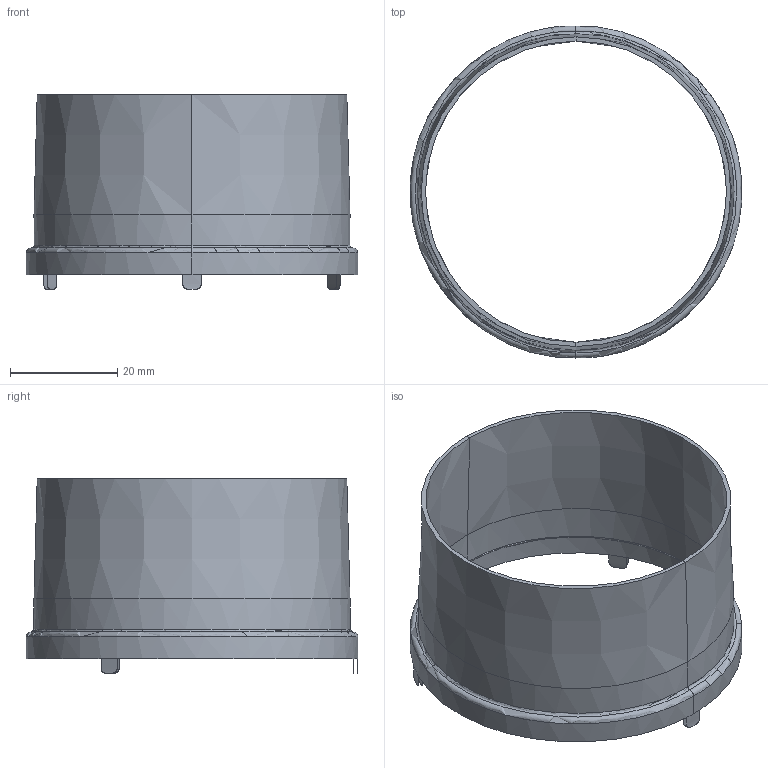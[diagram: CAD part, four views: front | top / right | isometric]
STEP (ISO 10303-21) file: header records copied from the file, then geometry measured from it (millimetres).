
FILE_DESCRIPTION(/* description */ (''),/* implementation_level */ '2;1');
FILE_NAME(/* name */ 'C:\Users\FrancoSartori\Documents\FARO\01_En Proceso\0000_2022\000_PRO\000_FOST\03_Publicación\011800095 (Long Snoot 70).stp',/* time_stamp */ '2022-04-25T08:06:10+02:00',/* author */ ('FrancoSartori'),/* organization */ (''),/* preprocessor_version */ 'ST-DEVELOPER v19',/* originating_system */ 'AutoCAD Mechanical',/* authorisation */ '');
FILE_SCHEMA (('AUTOMOTIVE_DESIGN { 1 0 10303 214 3 1 1 }'));
Length unit declared in the file: millimetre
Products named in the file (2): Product; 011800095 _Long Snoot70_ - Lamp-713374-Export
Assembly tree (1 placements, depth 2):
  Product
    011800095 _Long Snoot70_ - Lamp-713374-Export
Bounding box: 61.98 x 62 x 36.3 mm (x, y, z)
Surface area: 13031.6 mm2 (no closed solid volume)
Topology: 0 solids, 1 shells, 32 faces, 111 edges, 76 vertices
Faces by surface type: cylinder 14, plane 8, torus 6, cone 4
Entity records: 1799 total; most frequent: CARTESIAN_POINT 908, ORIENTED_EDGE 186, DIRECTION 145, EDGE_CURVE 111, VERTEX_POINT 76, B_SPLINE_CURVE_WITH_KNOTS 56, AXIS2_PLACEMENT_3D 55, LINE 35
